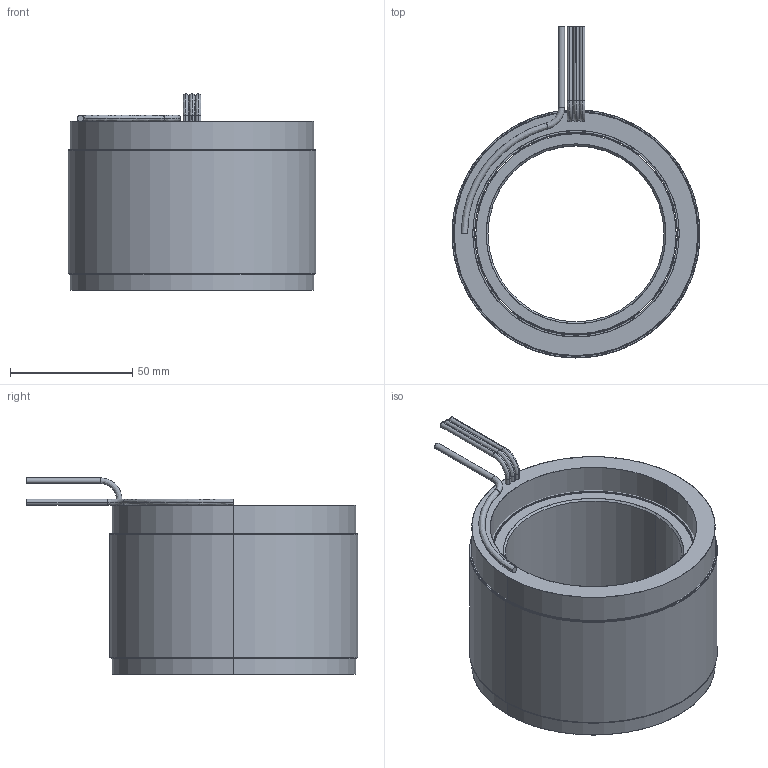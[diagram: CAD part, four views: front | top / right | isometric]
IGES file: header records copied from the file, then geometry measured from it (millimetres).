
Start section: SolidWorks IGES file using analytic representation for surfaces
Global section: file name: \\fs01.aveox.local\user documents\eng\My Documents\6100395-XX STATOR AND ROTOR SET, UT-4000-32P3, SENSORLESS\6100395-06.IGS; native system: SolidWorks 2016; preprocessor: SolidWorks 2016; author: eng; date: 201215.093628; units: inch
Bounding box: 101.6 x 135.89 x 80.39 mm (x, y, z)
Surface area: 128895.8 mm2 (no closed solid volume)
Topology: 0 solids, 0 shells, 75 faces, 2224 edges, 2224 vertices
Faces by surface type: revolution 46, bspline 29
